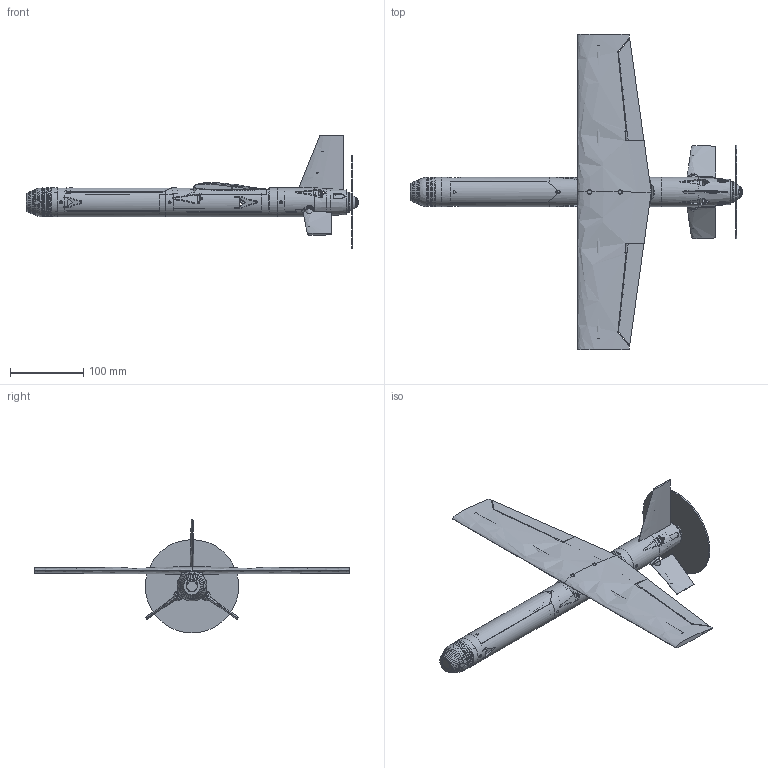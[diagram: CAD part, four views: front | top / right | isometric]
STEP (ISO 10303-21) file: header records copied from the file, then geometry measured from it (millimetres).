
FILE_DESCRIPTION(('SkyG Speed 90 - revision C6-9 - 2026-10-07','C6-assembly'),'2;1');
FILE_NAME('C6-assembly_C6-9','2026-10-07T14:03:27',('Author'),( 'Open CASCADE'),'Open CASCADE STEP processor 7.9','Open CASCADE 7.9' ,'Unknown');
FILE_SCHEMA(('AUTOMOTIVE_DESIGN { 1 0 10303 214 1 1 1 1 }'));
Length unit declared in the file: millimetre
Products named in the file (146): C4; N0M-nose-micro-camera; N0M-vtx-shelf; F1-fuselage-front; F2-fuselage-main; F3-tail-module; HF-front-hatch; HG-gps-carrier; WR-wing-right; WL-wing-left; AR-aileron-right; AL-aileron-left; SR-stabilator-right; SL-stabilator-left; FN-fin; AHR-aileron-horn-right; AHL-aileron-horn-left; THR-tail-horn-right; THL-tail-horn-left; M1-motor-plate; SP-spinner; ENV-motor; ENV-prop_disc; ENV-prop_hub_nut; ENV-battery; ENV-camera_micro19; ENV-cam_screws; ENV-MD_camera_micro19; ENV-MD_cam_screws; ENV-MD_vtx; ENV-MD_dome; ENV-PD_pi_board; ENV-PD_pi_sensor_lens; ENV-PD_pi_connector; ENV-PD_pi_ribbon; ENV-PD_pi_screws; ENV-PD_dome; ENV-O_o4_camera; ENV-O_o4_screws; ENV-O_o4_module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
Assembly tree (145 placements, depth 2):
  C4
    N0M-nose-micro-camera
    N0M-vtx-shelf
    F1-fuselage-front
    F2-fuselage-main
    F3-tail-module
    HF-front-hatch
    HG-gps-carrier
    WR-wing-right
    WL-wing-left
    AR-aileron-right
    AL-aileron-left
    SR-stabilator-right
    SL-stabilator-left
    FN-fin
    AHR-aileron-horn-right
    AHL-aileron-horn-left
    THR-tail-horn-right
    THL-tail-horn-left
    M1-motor-plate
    SP-spinner
    ENV-motor
    ENV-prop_disc
    ENV-prop_hub_nut
    ENV-battery
    ENV-camera_micro19
    ENV-cam_screws
    ENV-MD_camera_micro19
    ENV-MD_cam_screws
    ENV-MD_vtx
    ENV-MD_dome
    ENV-PD_pi_board
    ENV-PD_pi_sensor_lens
    ENV-PD_pi_connector
    ENV-PD_pi_ribbon
    ENV-PD_pi_screws
    ENV-PD_dome
    ENV-O_o4_camera
    ENV-O_o4_screws
    ENV-O_o4_module
    ENV-OD_o4_camera
    ENV-OD_o4_screws
    ENV-OD_o4_module
    ENV-OD_dome
    ENV-vtx
    ENV-gnss
    ENV-flight_controller
    ENV-ail_servo_arm
    ENV-ail_rod_R
    ENV-ail_link_R
    ENV-ail_rod_L
    ENV-ail_link_L
    ENV-ail_spine_R
    ENV-ail_spine_L
    ENV-receiver
    ENV-ant_elrs
    ENV-ant_vtx
    ENV-MD_ant_vtx
    ENV-O_ant_video
    ENV-OD_ant_video
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Bounding box: 452.19 x 430 x 155.1 mm (x, y, z)
Volume: 504650.7 mm3; surface area: 356959.9 mm2
Topology: 202 solids, 206 shells, 2858 faces, 7332 edges, 4853 vertices
Faces by surface type: plane 1898, cylinder 426, bspline 356, cone 125, sphere 27, torus 15, revolution 11
Full cylindrical faces by diameter (mm): 0.98 x6, 1.107 x11, 1.2 x22, 1.25 x8, 1.5 x2, 1.6 x23, 1.9 x1, 2 x32, 2.1 x2, 2.2 x12, 2.5 x2, 2.6 x4, 2.842 x6, 3 x14, 3.05 x2, 3.2 x4, 3.8 x4, 3.9 x3, 3.94 x3, 4 x4, 5 x6, 5.2 x3, 5.5 x4, 5.6 x3, 6 x3, 6.95 x1, 9 x1, 9.2 x1, 12.7 x1, 13 x2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
Entity records: 418588 total; most frequent: CARTESIAN_POINT 281322, DIRECTION 20706, ORIENTED_EDGE 14575, PCURVE 14575, DEFINITIONAL_REPRESENTATION 14575, LINE 10334, VECTOR 10334, B_SPLINE_CURVE_WITH_KNOTS 7609
